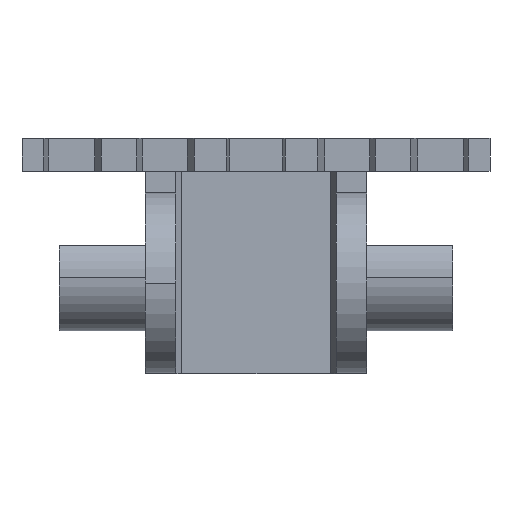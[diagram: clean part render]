
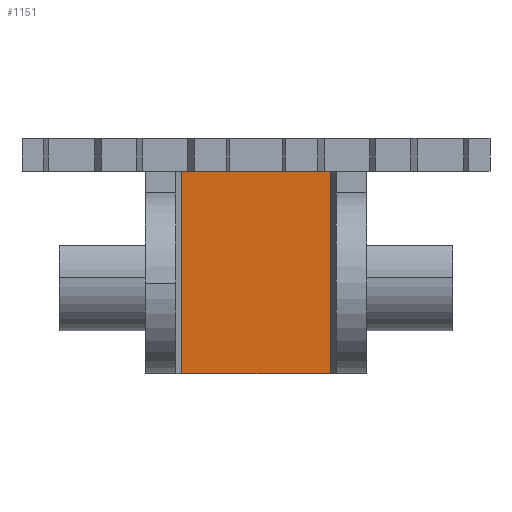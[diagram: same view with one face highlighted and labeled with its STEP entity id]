
A CAD part, front view. The second image highlights one B-rep face of the part: STEP entity #1151.
In plain terms, the highlighted planar face has unit normal (0, -1, 0).
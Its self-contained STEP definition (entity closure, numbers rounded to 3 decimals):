
#946 = EDGE_CURVE ( 'NONE', #1029, #947, #2823, .T. ) ;
#947 = VERTEX_POINT ( 'NONE', #2819 ) ;
#983 = EDGE_CURVE ( 'NONE', #1216, #1079, #2853, .T. ) ;
#1029 = VERTEX_POINT ( 'NONE', #2963 ) ;
#1079 = VERTEX_POINT ( 'NONE', #3009 ) ;
#1151 = ADVANCED_FACE ( 'NONE', ( #3189 ), #3188, .F. ) ;
#1152 = EDGE_LOOP ( 'NONE', ( #1327, #1328, #1329, #1330 ) ) ;
#1216 = VERTEX_POINT ( 'NONE', #3154 ) ;
#1239 = EDGE_CURVE ( 'NONE', #947, #1216, #3287, .T. ) ;
#1327 = ORIENTED_EDGE ( 'NONE', *, *, #983, .F. ) ;
#1328 = ORIENTED_EDGE ( 'NONE', *, *, #1239, .F. ) ;
#1329 = ORIENTED_EDGE ( 'NONE', *, *, #946, .F. ) ;
#1330 = ORIENTED_EDGE ( 'NONE', *, *, #1331, .T. ) ;
#1331 = EDGE_CURVE ( 'NONE', #1029, #1079, #3323, .T. ) ;
#2819 = CARTESIAN_POINT ( 'NONE',  ( 185.4, 133.6, -18.358 ) ) ;
#2820 = DIRECTION ( 'NONE',  ( 0., 0., -1. ) ) ;
#2821 = VECTOR ( 'NONE', #2820, 1000. ) ;
#2822 = CARTESIAN_POINT ( 'NONE',  ( 185.4, 133.6, -18.358 ) ) ;
#2823 = LINE ( 'NONE', #2822, #2821 ) ;
#2850 = DIRECTION ( 'NONE',  ( 0., 0., 1. ) ) ;
#2851 = VECTOR ( 'NONE', #2850, 1000. ) ;
#2852 = CARTESIAN_POINT ( 'NONE',  ( 171.4, 133.6, -18.358 ) ) ;
#2853 = LINE ( 'NONE', #2852, #2851 ) ;
#2963 = CARTESIAN_POINT ( 'NONE',  ( 185.4, 133.6, 0.642 ) ) ;
#3009 = CARTESIAN_POINT ( 'NONE',  ( 171.4, 133.6, 0.642 ) ) ;
#3154 = CARTESIAN_POINT ( 'NONE',  ( 171.4, 133.6, -18.358 ) ) ;
#3168 = AXIS2_PLACEMENT_3D ( 'NONE', #3170, #3169, #3229 ) ;
#3169 = DIRECTION ( 'NONE',  ( 0., 1., 0. ) ) ;
#3170 = CARTESIAN_POINT ( 'NONE',  ( 178.4, 133.6, -18.358 ) ) ;
#3188 = PLANE ( 'NONE',  #3168 ) ;
#3189 = FACE_OUTER_BOUND ( 'NONE', #1152, .T. ) ;
#3229 = DIRECTION ( 'NONE',  ( 0., 0., 1. ) ) ;
#3280 = VECTOR ( 'NONE', #3327, 1000. ) ;
#3281 = CARTESIAN_POINT ( 'NONE',  ( 178.4, 133.6, -18.358 ) ) ;
#3287 = LINE ( 'NONE', #3281, #3280 ) ;
#3320 = DIRECTION ( 'NONE',  ( -1., 0., 0. ) ) ;
#3321 = VECTOR ( 'NONE', #3320, 1000. ) ;
#3322 = CARTESIAN_POINT ( 'NONE',  ( 178.4, 133.6, 0.642 ) ) ;
#3323 = LINE ( 'NONE', #3322, #3321 ) ;
#3327 = DIRECTION ( 'NONE',  ( -1., 0., 0. ) ) ;
